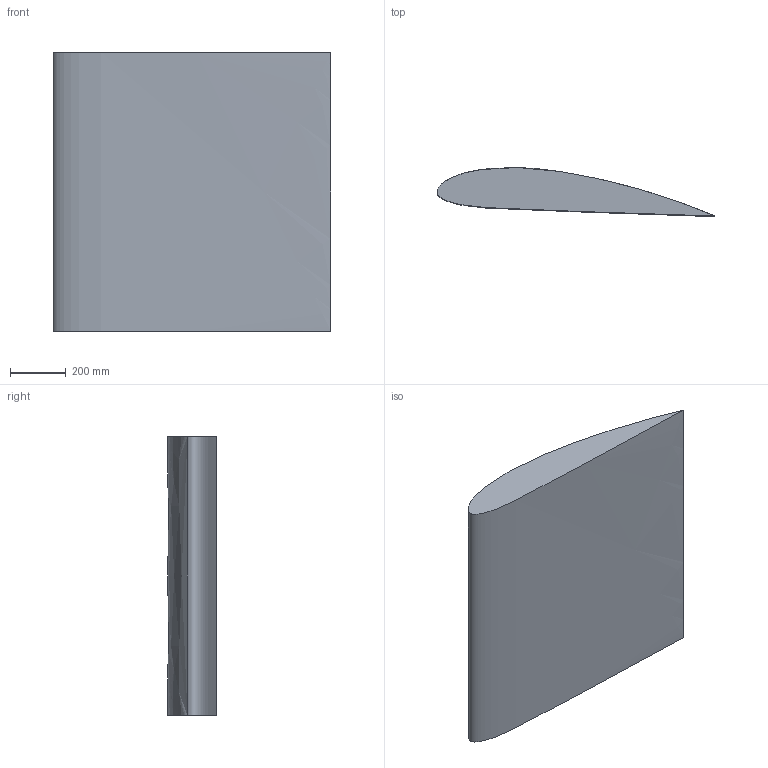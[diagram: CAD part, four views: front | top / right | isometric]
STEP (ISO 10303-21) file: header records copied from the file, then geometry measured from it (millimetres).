
FILE_DESCRIPTION (( 'STEP AP203' ), '1' );
FILE_NAME ('8.STEP', '2018-12-22T08:10:52', ( '' ), ( '' ), 'SwSTEP 2.0', 'SolidWorks 2017', '' );
FILE_SCHEMA (( 'CONFIG_CONTROL_DESIGN' ));
Length unit declared in the file: millimetre
Products named in the file (1): 8
Bounding box: 996.21 x 174.12 x 1000 mm (x, y, z)
Volume: 104289723.7 mm3; surface area: 2270058 mm2
Topology: 1 solids, 1 shells, 4 faces, 6 edges, 4 vertices
Faces by surface type: bspline 2, plane 2
Entity records: 559 total; most frequent: CARTESIAN_POINT 421, ORIENTED_EDGE 12, PERSON_AND_ORGANIZATION 8, DIRECTION 8, EDGE_CURVE 6, LOCAL_TIME 5, CALENDAR_DATE 5, CC_DESIGN_PERSON_AND_ORGANIZATION_ASSIGNMENT 5
